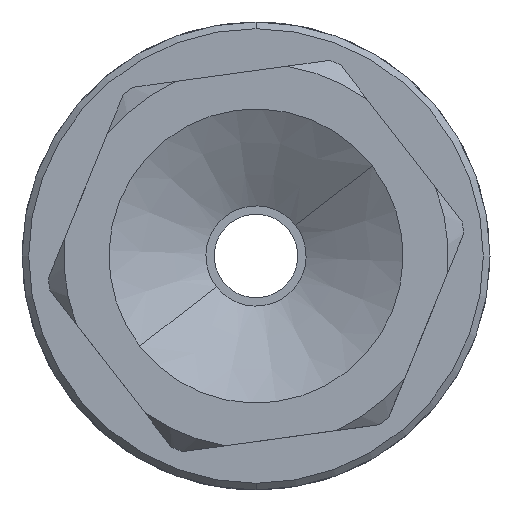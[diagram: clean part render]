
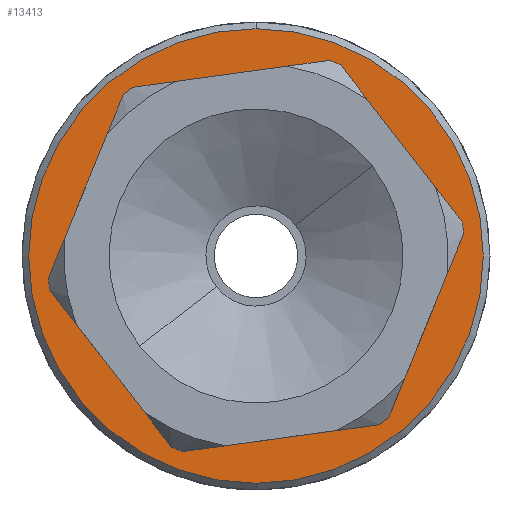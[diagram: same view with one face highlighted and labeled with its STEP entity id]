
A CAD part, front view. The second image highlights one B-rep face of the part: STEP entity #13413.
In plain terms, the highlighted planar face has unit normal (0, -1, 0).
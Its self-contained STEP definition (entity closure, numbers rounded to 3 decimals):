
#58 = AXIS2_PLACEMENT_3D ( 'NONE', #5883, #2475, #9377 ) ;
#201 = EDGE_CURVE ( 'NONE', #2245, #10918, #960, .T. ) ;
#337 = CARTESIAN_POINT ( 'NONE',  ( -10.794, -33.612, 66.8 ) ) ;
#773 = CARTESIAN_POINT ( 'NONE',  ( -10.794, -33.612, 60. ) ) ;
#806 = DIRECTION ( 'NONE',  ( 0., -1., 0. ) ) ;
#960 = CIRCLE ( 'NONE', #2666, 6.8 ) ;
#1114 = EDGE_CURVE ( 'NONE', #7469, #6547, #6078, .T. ) ;
#1715 = ORIENTED_EDGE ( 'NONE', *, *, #1114, .T. ) ;
#1934 = DIRECTION ( 'NONE',  ( 0., 0., 1. ) ) ;
#2245 = VERTEX_POINT ( 'NONE', #8498 ) ;
#2475 = DIRECTION ( 'NONE',  ( 0., 1., 0. ) ) ;
#2666 = AXIS2_PLACEMENT_3D ( 'NONE', #7687, #806, #8869 ) ;
#2820 = DIRECTION ( 'NONE',  ( 0., -1., 0. ) ) ;
#2978 = AXIS2_PLACEMENT_3D ( 'NONE', #9742, #2820, #10908 ) ;
#3730 = CARTESIAN_POINT ( 'NONE',  ( -10.794, -33.612, 60. ) ) ;
#4093 = FACE_OUTER_BOUND ( 'NONE', #12671, .T. ) ;
#4485 = AXIS2_PLACEMENT_3D ( 'NONE', #773, #8837, #1934 ) ;
#4695 = ORIENTED_EDGE ( 'NONE', *, *, #201, .T. ) ;
#4879 = DIRECTION ( 'NONE',  ( 0., 0., 1. ) ) ;
#5097 = CIRCLE ( 'NONE', #5131, 3.2 ) ;
#5131 = AXIS2_PLACEMENT_3D ( 'NONE', #3730, #11831, #4879 ) ;
#5764 = CIRCLE ( 'NONE', #2978, 6.8 ) ;
#5883 = CARTESIAN_POINT ( 'NONE',  ( -10.794, -33.612, 60. ) ) ;
#6078 = CIRCLE ( 'NONE', #58, 3.2 ) ;
#6547 = VERTEX_POINT ( 'NONE', #13824 ) ;
#7469 = VERTEX_POINT ( 'NONE', #8720 ) ;
#7687 = CARTESIAN_POINT ( 'NONE',  ( -10.794, -33.612, 60. ) ) ;
#7835 = EDGE_CURVE ( 'NONE', #10918, #2245, #5764, .T. ) ;
#8465 = EDGE_LOOP ( 'NONE', ( #12438, #1715 ) ) ;
#8498 = CARTESIAN_POINT ( 'NONE',  ( -10.794, -33.612, 53.2 ) ) ;
#8688 = EDGE_CURVE ( 'NONE', #6547, #7469, #5097, .T. ) ;
#8720 = CARTESIAN_POINT ( 'NONE',  ( -10.794, -33.612, 63.2 ) ) ;
#8837 = DIRECTION ( 'NONE',  ( 0., 1., 0. ) ) ;
#8869 = DIRECTION ( 'NONE',  ( 0., 0., 1. ) ) ;
#8894 = ORIENTED_EDGE ( 'NONE', *, *, #7835, .T. ) ;
#9377 = DIRECTION ( 'NONE',  ( 0., 0., 1. ) ) ;
#9742 = CARTESIAN_POINT ( 'NONE',  ( -10.794, -33.612, 60. ) ) ;
#10908 = DIRECTION ( 'NONE',  ( 0., 0., 1. ) ) ;
#10918 = VERTEX_POINT ( 'NONE', #337 ) ;
#11831 = DIRECTION ( 'NONE',  ( 0., 1., 0. ) ) ;
#12254 = PLANE ( 'NONE',  #4485 ) ;
#12438 = ORIENTED_EDGE ( 'NONE', *, *, #8688, .T. ) ;
#12671 = EDGE_LOOP ( 'NONE', ( #8894, #4695 ) ) ;
#13353 = FACE_BOUND ( 'NONE', #8465, .T. ) ;
#13413 = ADVANCED_FACE ( 'NONE', ( #4093, #13353 ), #12254, .F. ) ;
#13824 = CARTESIAN_POINT ( 'NONE',  ( -10.794, -33.612, 56.8 ) ) ;
